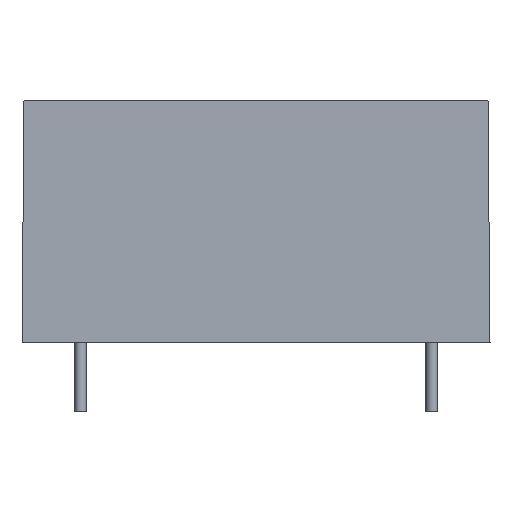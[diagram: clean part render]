
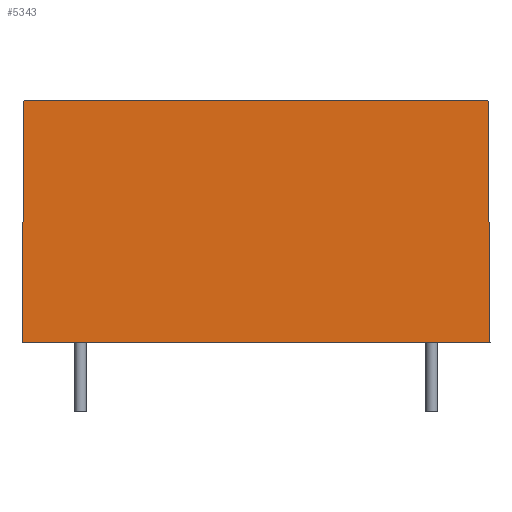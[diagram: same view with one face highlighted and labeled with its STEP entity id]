
A CAD part, left-side view. The second image highlights one B-rep face of the part: STEP entity #5343.
In plain terms, the highlighted planar face has unit normal (-1, 0, 0.008).
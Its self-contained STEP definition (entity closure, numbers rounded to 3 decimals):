
#485=LINE('',#9468,#907);
#493=LINE('',#9485,#915);
#494=LINE('',#9487,#916);
#495=LINE('',#9489,#917);
#907=VECTOR('',#6349,1000.);
#915=VECTOR('',#6361,1000.);
#916=VECTOR('',#6364,1000.);
#917=VECTOR('',#6365,1000.);
#1923=ORIENTED_EDGE('',*,*,#2452,.T.);
#1924=ORIENTED_EDGE('',*,*,#2460,.F.);
#1925=ORIENTED_EDGE('',*,*,#2461,.F.);
#1926=ORIENTED_EDGE('',*,*,#2462,.T.);
#2452=EDGE_CURVE('',#2815,#2814,#485,.F.);
#2460=EDGE_CURVE('',#2821,#2814,#493,.T.);
#2461=EDGE_CURVE('',#2822,#2821,#494,.F.);
#2462=EDGE_CURVE('',#2822,#2815,#495,.T.);
#2814=VERTEX_POINT('',#9467);
#2815=VERTEX_POINT('',#9469);
#2821=VERTEX_POINT('',#9484);
#2822=VERTEX_POINT('',#9488);
#3161=EDGE_LOOP('',(#1923,#1924,#1925,#1926));
#3430=FACE_BOUND('',#3161,.T.);
#3604=PLANE('',#5553);
#5343=ADVANCED_FACE('',(#3430),#3604,.T.);
#5553=AXIS2_PLACEMENT_3D('',#9486,#6362,#6363);
#6349=DIRECTION('',(0.,-1.,0.));
#6361=DIRECTION('',(0.008,-0.008,1.));
#6362=DIRECTION('',(-1.,0.,0.008));
#6363=DIRECTION('',(-0.008,0.,-1.));
#6364=DIRECTION('',(0.,-1.,0.));
#6365=DIRECTION('',(0.008,0.008,1.));
#9467=CARTESIAN_POINT('',(0.,20.212,10.559));
#9468=CARTESIAN_POINT('',(0.,10.062,10.559));
#9469=CARTESIAN_POINT('',(0.,0.082,10.559));
#9484=CARTESIAN_POINT('',(-0.087,20.3,0.059));
#9485=CARTESIAN_POINT('',(0.001,20.211,10.691));
#9486=CARTESIAN_POINT('',(0.,10.062,10.559));
#9487=CARTESIAN_POINT('',(-0.087,10.062,0.059));
#9488=CARTESIAN_POINT('',(-0.087,-0.005,0.059));
#9489=CARTESIAN_POINT('',(0.001,0.083,10.642));
